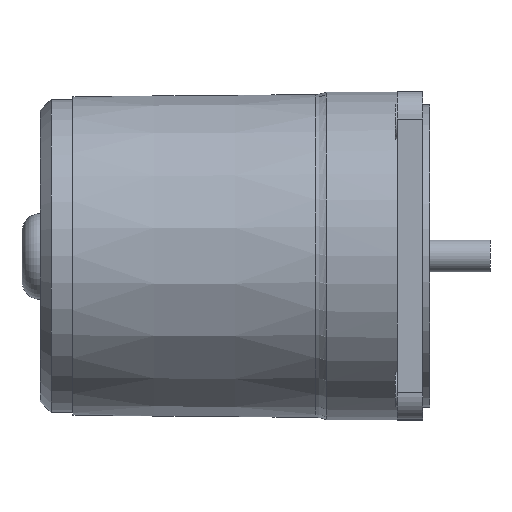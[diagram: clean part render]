
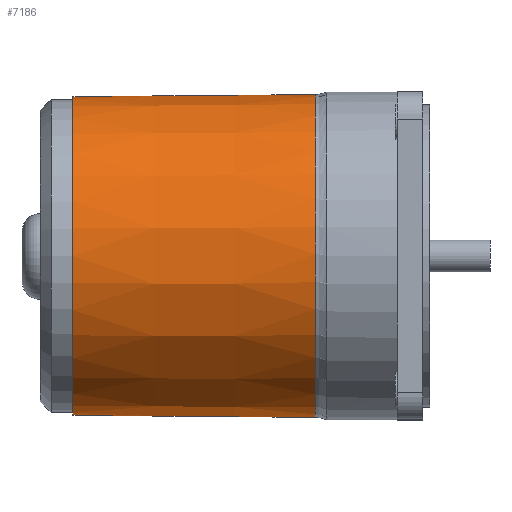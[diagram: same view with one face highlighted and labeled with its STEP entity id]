
A CAD part, top view. The second image highlights one B-rep face of the part: STEP entity #7186.
In plain terms, the highlighted conical face has half-angle 0.48 degrees and reference radius 44.029 mm.
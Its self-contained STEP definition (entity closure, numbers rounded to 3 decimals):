
#6796=CARTESIAN_POINT('',(9.,43.75,0.0));
#6797=VERTEX_POINT('',#6796);
#6798=CARTESIAN_POINT('',(9.,0.,0.0));
#6799=DIRECTION('',(1.0,0.0,0.0));
#6800=DIRECTION('',(0.0,1.0,0.0));
#6801=AXIS2_PLACEMENT_3D('',#6798,#6799,#6800);
#6802=CIRCLE('',#6801,43.75);
#6803=EDGE_CURVE('',#6797,#6797,#6802,.T.);
#6949=CARTESIAN_POINT('',(75.559,29.222,-33.306));
#6950=VERTEX_POINT('',#6949);
#7110=CARTESIAN_POINT('',(75.559,-29.222,-33.306));
#7111=VERTEX_POINT('',#7110);
#7122=CARTESIAN_POINT('',(75.559,0.,0.0));
#7123=DIRECTION('',(1.0,0.0,0.0));
#7124=DIRECTION('',(0.0,1.0,0.0));
#7125=AXIS2_PLACEMENT_3D('',#7122,#7123,#7124);
#7126=CIRCLE('',#7125,44.308);
#7127=EDGE_CURVE('',#6950,#7111,#7126,.T.);
#7132=CARTESIAN_POINT('',(42.279,0.,0.0));
#7133=DIRECTION('',(1.0,0.,0.0));
#7134=DIRECTION('',(0.0,1.0,0.0));
#7135=AXIS2_PLACEMENT_3D('',#7132,#7133,#7134);
#7136=CONICAL_SURFACE('',#7135,44.029,0.48);
#7137=CARTESIAN_POINT('',(42.504,-29.21,-32.947));
#7138=VERTEX_POINT('',#7137);
#7139=CARTESIAN_POINT('',(43.,-29.21,-32.952));
#7140=VERTEX_POINT('',#7139);
#7141=CARTESIAN_POINT('',(42.504,-29.21,-32.947));
#7142=CARTESIAN_POINT('',(42.669,-29.21,-32.949));
#7143=CARTESIAN_POINT('',(42.835,-29.21,-32.95));
#7144=CARTESIAN_POINT('',(43.,-29.21,-32.952));
#7145=B_SPLINE_CURVE_WITH_KNOTS('',3,(#7141,#7142,#7143,#7144),.UNSPECIFIED.,.F.,.U.,(4,4),(3.648,3.698),.UNSPECIFIED.);
#7146=EDGE_CURVE('',#7138,#7140,#7145,.T.);
#7147=ORIENTED_EDGE('',*,*,#7146,.T.);
#7148=CARTESIAN_POINT('',(75.559,-29.222,-33.306));
#7149=CARTESIAN_POINT('',(64.706,-29.218,-33.188));
#7150=CARTESIAN_POINT('',(53.853,-29.214,-33.07));
#7151=CARTESIAN_POINT('',(43.,-29.21,-32.952));
#7152=B_SPLINE_CURVE_WITH_KNOTS('',3,(#7148,#7149,#7150,#7151),.UNSPECIFIED.,.F.,.U.,(4,4),(-6.954,-3.698),.UNSPECIFIED.);
#7153=EDGE_CURVE('',#7111,#7140,#7152,.T.);
#7154=ORIENTED_EDGE('',*,*,#7153,.F.);
#7155=ORIENTED_EDGE('',*,*,#7127,.F.);
#7156=CARTESIAN_POINT('',(43.,29.21,-32.952));
#7157=VERTEX_POINT('',#7156);
#7158=CARTESIAN_POINT('',(43.,29.21,-32.952));
#7159=CARTESIAN_POINT('',(53.853,29.214,-33.07));
#7160=CARTESIAN_POINT('',(64.706,29.218,-33.188));
#7161=CARTESIAN_POINT('',(75.559,29.222,-33.306));
#7162=B_SPLINE_CURVE_WITH_KNOTS('',3,(#7158,#7159,#7160,#7161),.UNSPECIFIED.,.F.,.U.,(4,4),(-3.256,0.0),.UNSPECIFIED.);
#7163=EDGE_CURVE('',#7157,#6950,#7162,.T.);
#7164=ORIENTED_EDGE('',*,*,#7163,.F.);
#7165=CARTESIAN_POINT('',(42.504,29.21,-32.947));
#7166=VERTEX_POINT('',#7165);
#7167=CARTESIAN_POINT('',(43.,29.21,-32.952));
#7168=CARTESIAN_POINT('',(42.835,29.21,-32.95));
#7169=CARTESIAN_POINT('',(42.669,29.21,-32.949));
#7170=CARTESIAN_POINT('',(42.504,29.21,-32.947));
#7171=B_SPLINE_CURVE_WITH_KNOTS('',3,(#7167,#7168,#7169,#7170),.UNSPECIFIED.,.F.,.U.,(4,4),(3.256,3.306),.UNSPECIFIED.);
#7172=EDGE_CURVE('',#7157,#7166,#7171,.T.);
#7173=ORIENTED_EDGE('',*,*,#7172,.T.);
#7174=CARTESIAN_POINT('',(42.504,0.,0.0));
#7175=DIRECTION('',(1.0,0.0,0.0));
#7176=DIRECTION('',(0.0,0.0,-1.0));
#7177=AXIS2_PLACEMENT_3D('',#7174,#7175,#7176);
#7178=CIRCLE('',#7177,44.031);
#7179=EDGE_CURVE('',#7138,#7166,#7178,.T.);
#7180=ORIENTED_EDGE('',*,*,#7179,.F.);
#7181=EDGE_LOOP('',(#7147,#7154,#7155,#7164,#7173,#7180));
#7182=FACE_OUTER_BOUND('',#7181,.T.);
#7183=ORIENTED_EDGE('',*,*,#6803,.T.);
#7184=EDGE_LOOP('',(#7183));
#7185=FACE_BOUND('',#7184,.T.);
#7186=ADVANCED_FACE('',(#7182,#7185),#7136,.T.);
